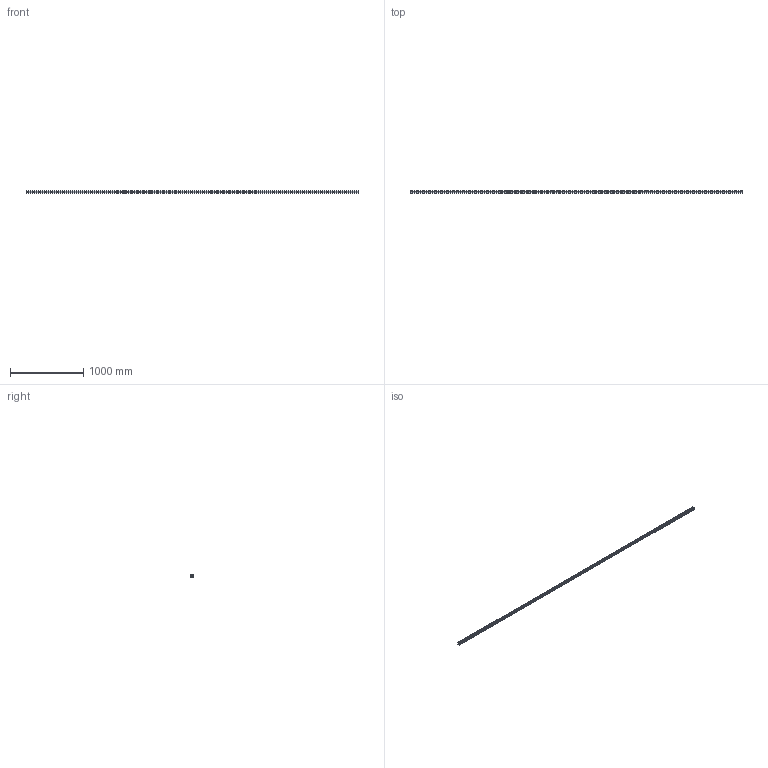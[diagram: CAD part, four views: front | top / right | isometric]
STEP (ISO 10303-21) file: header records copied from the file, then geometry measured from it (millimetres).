
FILE_DESCRIPTION(('CATIA V5 STEP Exchange'),'2;1');
FILE_NAME('C:\Users\14044\Desktop\HSV35R1SS+4520L\HSV35_RAIL_4520L.stp','2015-12-04T10:05:38+00:00',('none'),('none'),'Version 5-6 Release 2012','CATIA V5 STEP AP203','none');
FILE_SCHEMA(('CONFIG_CONTROL_DESIGN'));
Length unit declared in the file: millimetre
Products named in the file (1): HSV35_RAIL_4520L
Bounding box: 4520 x 29 x 34 mm (x, y, z)
Volume: 3655306.7 mm3; surface area: 641009.2 mm2
Topology: 1 solids, 1 shells, 319 faces, 780 edges, 694 vertices
Faces by surface type: cylinder 232, plane 87
Entity records: 8739 total; most frequent: CARTESIAN_POINT 1618, ORIENTED_EDGE 1560, DIRECTION 1066, EDGE_CURVE 780, AXIS2_PLACEMENT_3D 608, VERTEX_POINT 520, EDGE_LOOP 490, CIRCLE 464
